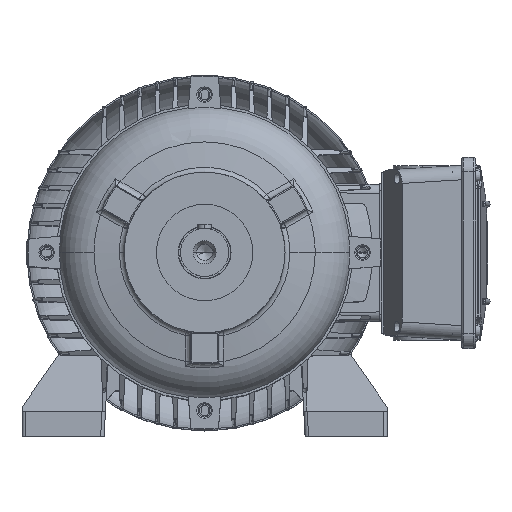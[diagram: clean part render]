
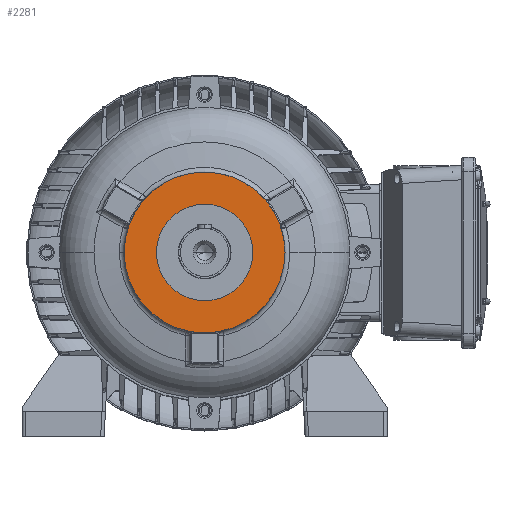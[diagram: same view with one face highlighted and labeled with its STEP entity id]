
A CAD part, top view. The second image highlights one B-rep face of the part: STEP entity #2281.
In plain terms, the highlighted planar face has unit normal (0, 0, 1) as drawn and (-1, 0, 0) by its records, which use the part's own axes.
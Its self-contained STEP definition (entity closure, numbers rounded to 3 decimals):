
#2281 = ADVANCED_FACE ( 'NONE', ( #184157, #67230 ), #166061, .T. ) ;
#8609 = DIRECTION ( 'NONE',  ( 0., 0., 1. ) ) ;
#9126 = DIRECTION ( 'NONE',  ( 0., 0., 1. ) ) ;
#11587 = CIRCLE ( 'NONE', #121997, 70. ) ;
#18915 = DIRECTION ( 'NONE',  ( -1., 0., 0. ) ) ;
#19906 = CARTESIAN_POINT ( 'NONE',  ( 2., -42., 0. ) ) ;
#23793 = CIRCLE ( 'NONE', #190293, 70. ) ;
#25747 = EDGE_CURVE ( 'NONE', #31427, #115219, #60311, .T. ) ;
#27632 = VERTEX_POINT ( 'NONE', #185627 ) ;
#30294 = CARTESIAN_POINT ( 'NONE',  ( 2., 0., 0. ) ) ;
#31427 = VERTEX_POINT ( 'NONE', #108009 ) ;
#37213 = EDGE_LOOP ( 'NONE', ( #96982, #125352 ) ) ;
#45032 = DIRECTION ( 'NONE',  ( 0., 0., 1. ) ) ;
#49450 = ORIENTED_EDGE ( 'NONE', *, *, #55116, .F. ) ;
#55116 = EDGE_CURVE ( 'NONE', #115219, #31427, #147692, .T. ) ;
#60311 = CIRCLE ( 'NONE', #89050, 42. ) ;
#64174 = DIRECTION ( 'NONE',  ( 0., 0., 1. ) ) ;
#67230 = FACE_BOUND ( 'NONE', #83290, .T. ) ;
#83290 = EDGE_LOOP ( 'NONE', ( #152004, #49450 ) ) ;
#89050 = AXIS2_PLACEMENT_3D ( 'NONE', #184771, #97067, #9126 ) ;
#94341 = EDGE_CURVE ( 'NONE', #27632, #96415, #23793, .T. ) ;
#96415 = VERTEX_POINT ( 'NONE', #172779 ) ;
#96545 = DIRECTION ( 'NONE',  ( -1., 0., 0. ) ) ;
#96982 = ORIENTED_EDGE ( 'NONE', *, *, #94341, .T. ) ;
#97067 = DIRECTION ( 'NONE',  ( -1., 0., 0. ) ) ;
#106837 = CARTESIAN_POINT ( 'NONE',  ( 2., 0., 0. ) ) ;
#108009 = CARTESIAN_POINT ( 'NONE',  ( 2., 0., 42. ) ) ;
#115219 = VERTEX_POINT ( 'NONE', #167120 ) ;
#121595 = DIRECTION ( 'NONE',  ( 0., 0., 1. ) ) ;
#121997 = AXIS2_PLACEMENT_3D ( 'NONE', #30294, #132930, #45032 ) ;
#125352 = ORIENTED_EDGE ( 'NONE', *, *, #187190, .T. ) ;
#130276 = AXIS2_PLACEMENT_3D ( 'NONE', #19906, #151991, #64174 ) ;
#132930 = DIRECTION ( 'NONE',  ( -1., 0., 0. ) ) ;
#146218 = AXIS2_PLACEMENT_3D ( 'NONE', #106837, #18915, #121595 ) ;
#147692 = CIRCLE ( 'NONE', #146218, 42. ) ;
#151991 = DIRECTION ( 'NONE',  ( -1., 0., 0. ) ) ;
#152004 = ORIENTED_EDGE ( 'NONE', *, *, #25747, .F. ) ;
#166061 = PLANE ( 'NONE',  #130276 ) ;
#167120 = CARTESIAN_POINT ( 'NONE',  ( 2., 0., -42. ) ) ;
#172779 = CARTESIAN_POINT ( 'NONE',  ( 2., 0., -70. ) ) ;
#184157 = FACE_OUTER_BOUND ( 'NONE', #37213, .T. ) ;
#184255 = CARTESIAN_POINT ( 'NONE',  ( 2., 0., 0. ) ) ;
#184771 = CARTESIAN_POINT ( 'NONE',  ( 2., 0., 0. ) ) ;
#185627 = CARTESIAN_POINT ( 'NONE',  ( 2., 0., 70. ) ) ;
#187190 = EDGE_CURVE ( 'NONE', #96415, #27632, #11587, .T. ) ;
#190293 = AXIS2_PLACEMENT_3D ( 'NONE', #184255, #96545, #8609 ) ;
